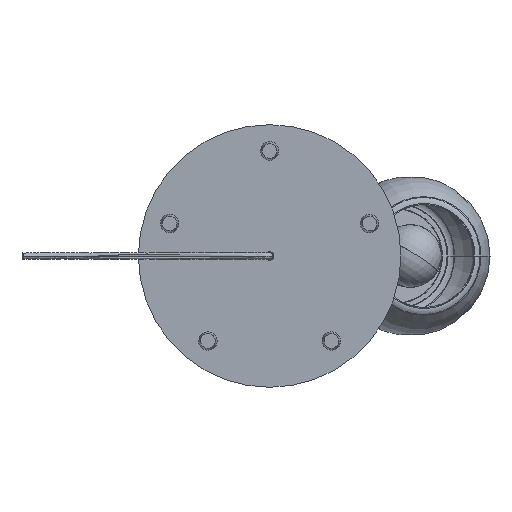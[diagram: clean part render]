
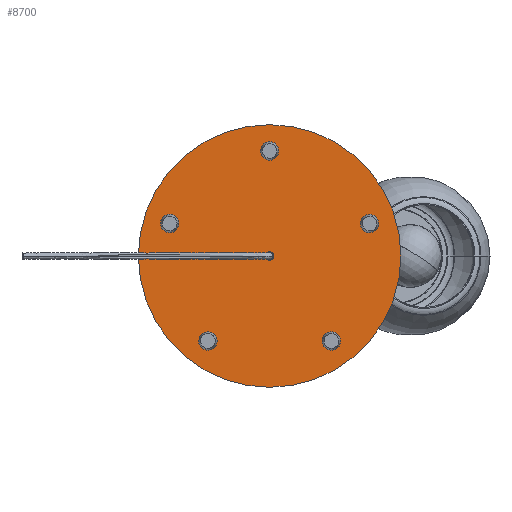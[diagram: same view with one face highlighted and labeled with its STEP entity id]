
A CAD part, front view. The second image highlights one B-rep face of the part: STEP entity #8700.
In plain terms, the highlighted planar face has unit normal (0, -1, 0).
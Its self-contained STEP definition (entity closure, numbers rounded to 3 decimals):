
#218 = CARTESIAN_POINT ( 'NONE',  ( 0., 0., -125. ) ) ;
#808 = VERTEX_POINT ( 'NONE', #7553 ) ;
#1412 = DIRECTION ( 'NONE',  ( 0., 0., 1. ) ) ;
#1981 = PLANE ( 'NONE',  #8733 ) ;
#2129 = CARTESIAN_POINT ( 'NONE',  ( 0., 0., 0. ) ) ;
#2659 = CARTESIAN_POINT ( 'NONE',  ( 0., 0., 4. ) ) ;
#2662 = CIRCLE ( 'NONE', #6451, 125. ) ;
#2777 = VERTEX_POINT ( 'NONE', #2659 ) ;
#2799 = AXIS2_PLACEMENT_3D ( 'NONE', #8823, #8183, #1412 ) ;
#2984 = FACE_OUTER_BOUND ( 'NONE', #5834, .T. ) ;
#3097 = ORIENTED_EDGE ( 'NONE', *, *, #7322, .F. ) ;
#3576 = EDGE_CURVE ( 'NONE', #2777, #8871, #8134, .T. ) ;
#3941 = DIRECTION ( 'NONE',  ( 0., 1., 0. ) ) ;
#4440 = ORIENTED_EDGE ( 'NONE', *, *, #3576, .F. ) ;
#4709 = AXIS2_PLACEMENT_3D ( 'NONE', #2129, #5531, #6590 ) ;
#5531 = DIRECTION ( 'NONE',  ( 0., -1., 0. ) ) ;
#5834 = EDGE_LOOP ( 'NONE', ( #9130, #3097 ) ) ;
#6060 = CIRCLE ( 'NONE', #9117, 4. ) ;
#6271 = DIRECTION ( 'NONE',  ( 0., 1., 0. ) ) ;
#6451 = AXIS2_PLACEMENT_3D ( 'NONE', #10806, #3941, #9268 ) ;
#6520 = VERTEX_POINT ( 'NONE', #218 ) ;
#6590 = DIRECTION ( 'NONE',  ( 0., 0., -1. ) ) ;
#6604 = EDGE_CURVE ( 'NONE', #6520, #808, #2662, .T. ) ;
#6872 = DIRECTION ( 'NONE',  ( 0., 0., -1. ) ) ;
#6974 = CARTESIAN_POINT ( 'NONE',  ( 0., 0., 0. ) ) ;
#7322 = EDGE_CURVE ( 'NONE', #808, #6520, #7685, .T. ) ;
#7553 = CARTESIAN_POINT ( 'NONE',  ( 0., 0., 125. ) ) ;
#7685 = CIRCLE ( 'NONE', #2799, 125. ) ;
#8108 = ORIENTED_EDGE ( 'NONE', *, *, #10626, .F. ) ;
#8134 = CIRCLE ( 'NONE', #4709, 4. ) ;
#8183 = DIRECTION ( 'NONE',  ( 0., 1., 0. ) ) ;
#8700 = ADVANCED_FACE ( 'NONE', ( #9778, #2984 ), #1981, .F. ) ;
#8733 = AXIS2_PLACEMENT_3D ( 'NONE', #10691, #6271, #9835 ) ;
#8823 = CARTESIAN_POINT ( 'NONE',  ( 0., 0., 0. ) ) ;
#8871 = VERTEX_POINT ( 'NONE', #9044 ) ;
#9044 = CARTESIAN_POINT ( 'NONE',  ( 0., 0., -4. ) ) ;
#9117 = AXIS2_PLACEMENT_3D ( 'NONE', #6974, #10382, #6872 ) ;
#9130 = ORIENTED_EDGE ( 'NONE', *, *, #6604, .F. ) ;
#9268 = DIRECTION ( 'NONE',  ( 0., 0., 1. ) ) ;
#9778 = FACE_BOUND ( 'NONE', #9919, .T. ) ;
#9835 = DIRECTION ( 'NONE',  ( 0., 0., 1. ) ) ;
#9919 = EDGE_LOOP ( 'NONE', ( #8108, #4440 ) ) ;
#10382 = DIRECTION ( 'NONE',  ( 0., -1., 0. ) ) ;
#10626 = EDGE_CURVE ( 'NONE', #8871, #2777, #6060, .T. ) ;
#10691 = CARTESIAN_POINT ( 'NONE',  ( 0., 0., 0. ) ) ;
#10806 = CARTESIAN_POINT ( 'NONE',  ( 0., 0., 0. ) ) ;
